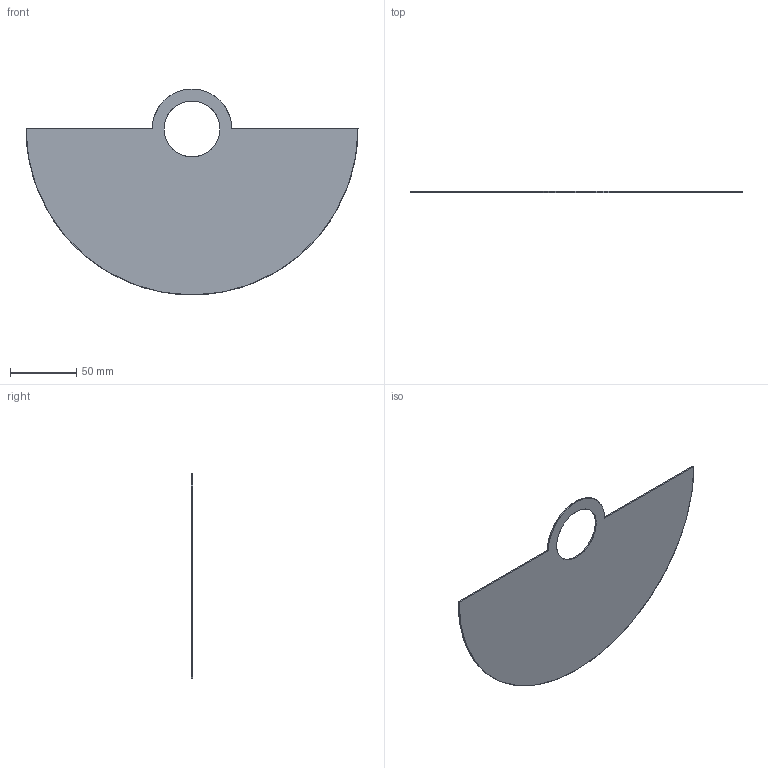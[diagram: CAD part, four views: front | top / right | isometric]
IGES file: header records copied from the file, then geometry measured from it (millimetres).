
Start section: SolidWorks IGES file using analytic representation for surfaces
Global section: file name: C:\Users\Agus\Desktop\incorporar\1088\25\1088-25.IGS; native system: SolidWorks 2018; preprocessor: SolidWorks 2018; author: Agus; date: 190315.132039; units: millimetre
Bounding box: 250 x 1 x 155 mm (x, y, z)
Surface area: 49952.9 mm2 (no closed solid volume)
Topology: 0 solids, 0 shells, 9 faces, 192 edges, 192 vertices
Faces by surface type: revolution 5, bspline 4
